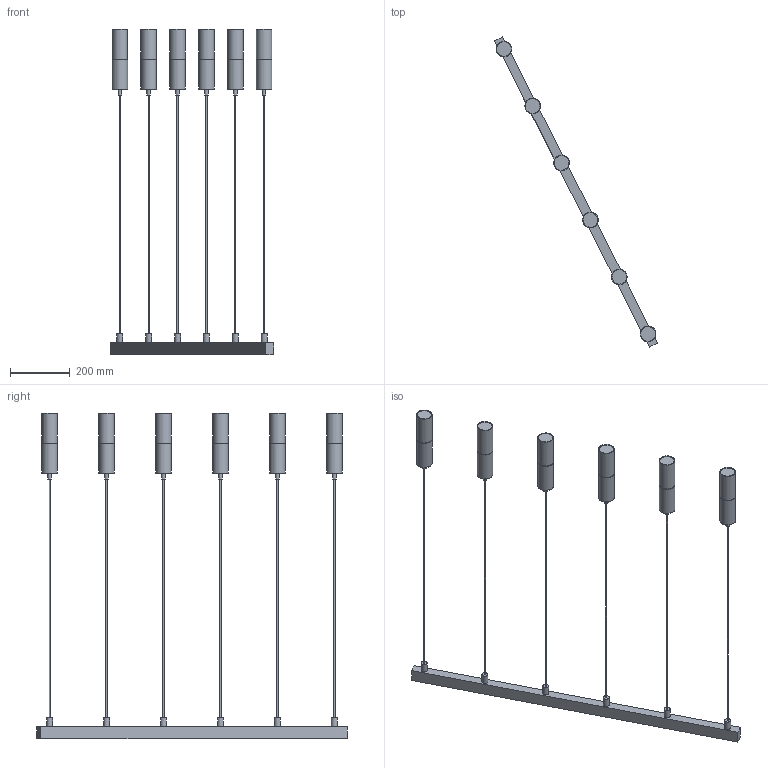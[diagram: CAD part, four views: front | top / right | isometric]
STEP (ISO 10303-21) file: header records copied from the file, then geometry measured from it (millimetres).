
FILE_DESCRIPTION(/* description */ (''),/* implementation_level */ '2;1');
FILE_NAME(/* name */ 'D:\TK Lighting\Elit Black\Elit Black 4368_6_Gold.stp',/* time_stamp */ '2020-09-28T20:03:06+02:00',/* author */ ('Admin'),/* organization */ (''),/* preprocessor_version */ 'ST-DEVELOPER v16.5',/* originating_system */ 'Autodesk Inventor 2017',/* authorisation */ '');
FILE_SCHEMA (('AUTOMOTIVE_DESIGN { 1 0 10303 214 3 1 1 }'));
Products named in the file (7): Elit Black 4368_6; Zawiesie_6; Lampa ze sznurem; Lampa Logan Black Gold bez zawiesia; Klosz Złoty 4368; Klosz; Lampa Logan Black Gold do 4
Assembly tree (11 placements, depth 4):
  Elit Black 4368_6
    Zawiesie_6
    Lampa ze sznurem  x6
      Lampa Logan Black Gold bez zawiesia
        Klosz Złoty 4368
        Klosz
      Lampa Logan Black Gold do 4
Bounding box: 546.54 x 1039.39 x 1090 mm (x, y, z)
Volume: 3920335.8 mm3; surface area: 854368.2 mm2
Topology: 31 solids, 31 shells, 132 faces, 174 edges, 116 vertices
Faces by surface type: plane 78, cylinder 54
Full cylindrical faces by diameter (mm): 4 x6, 12 x6, 20 x6, 49 x12, 50 x12, 52 x12
Entity records: 1033 total; most frequent: DIRECTION 178, CARTESIAN_POINT 131, AXIS2_PLACEMENT_3D 83, ORIENTED_EDGE 80, EDGE_LOOP 62, EDGE_CURVE 40, FACE_OUTER_BOUND 37, ADVANCED_FACE 37
